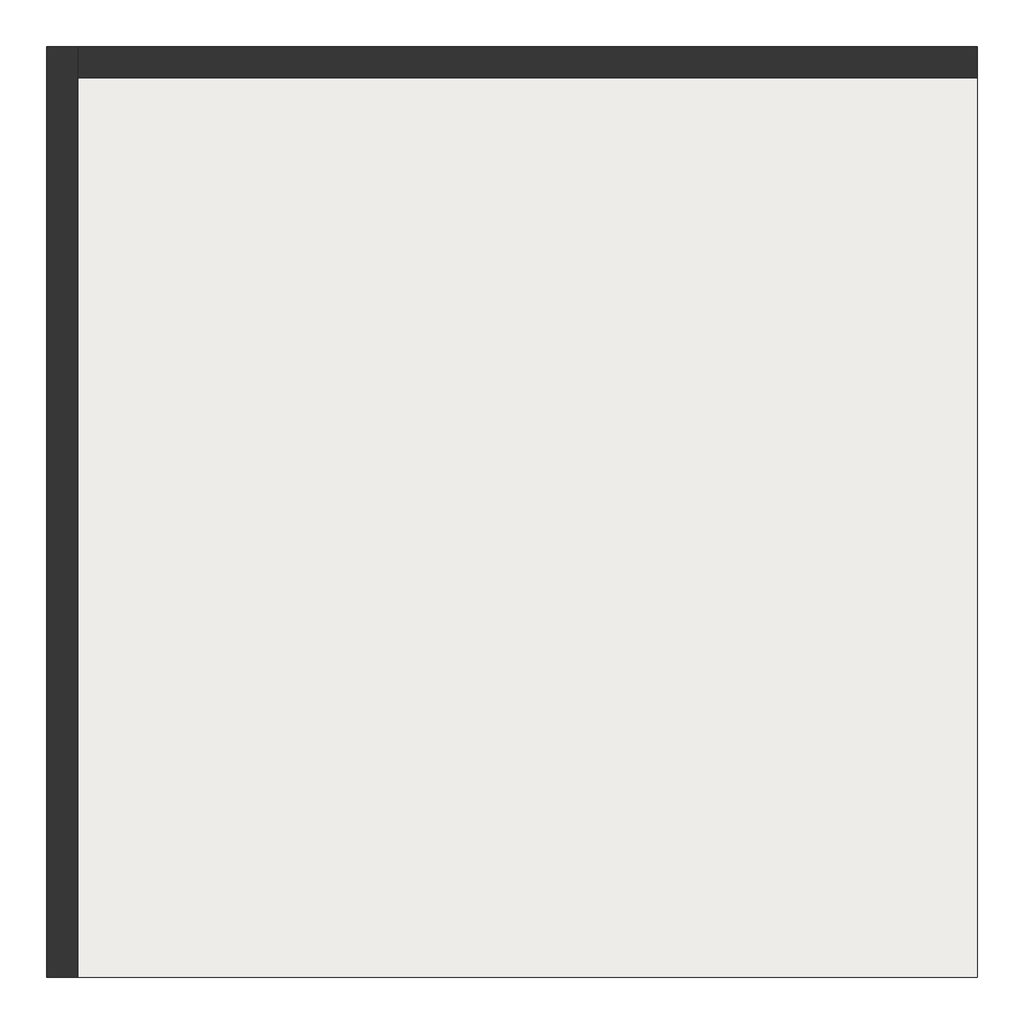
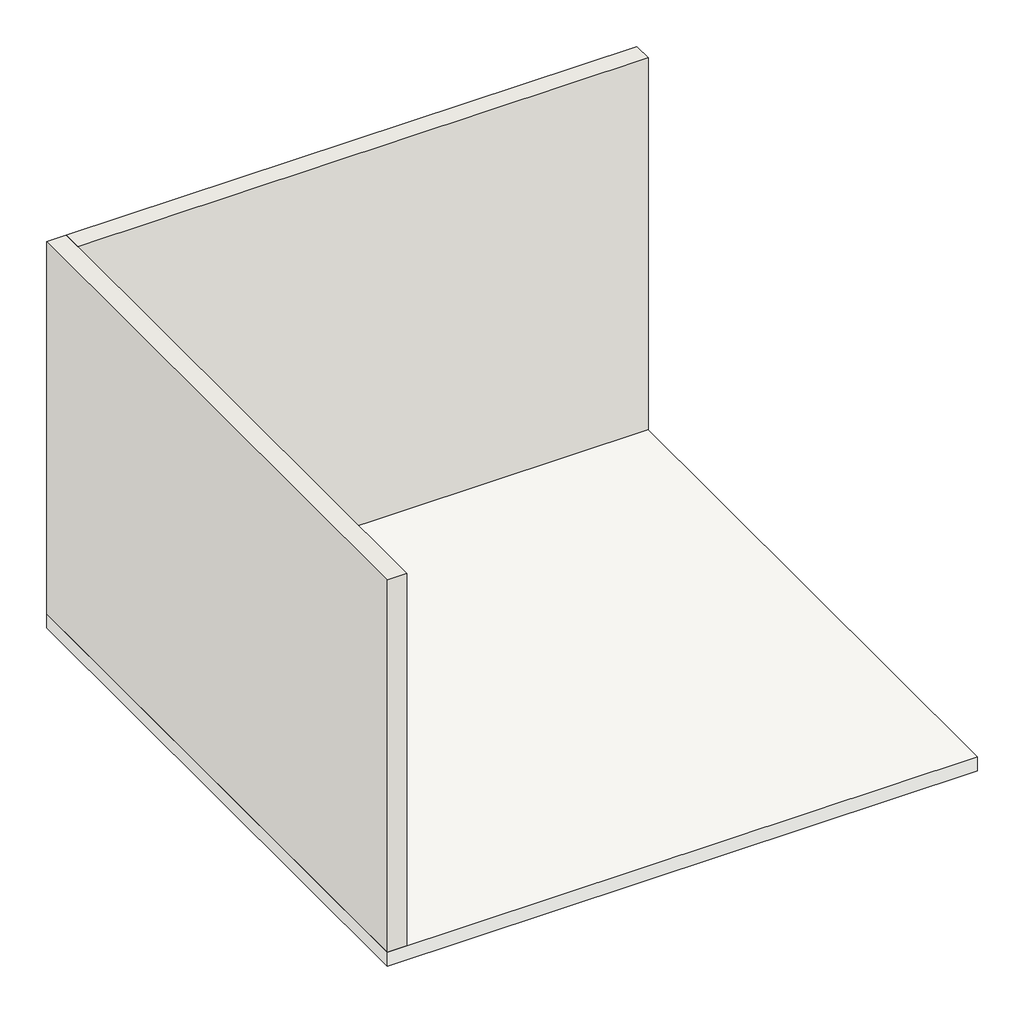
# One storey: 2 walls, 1 slab.
"""IFC4 building model written with IfcOpenShell, lengths in millimetres."""

from ifc_helpers import new_model, si_unit, frame, origin, origin_with_axes, place, context, project, spatial, polyline, outline, extrude, faceted_brep, element, save

model = new_model("IFC4")

# Units and contexts
model_context = context("Model", 3, world=origin())
ifc_project = project(units=[si_unit("LENGTHUNIT", "METRE", prefix="MILLI")], contexts=[model_context])

# Site, building, storey
site = spatial("IfcSite", under=ifc_project)
building = spatial("IfcBuilding", under=site)
storey = spatial("IfcBuildingStorey", under=building, Name="Nível 1", Elevation=0.0)

# Slab
placement = place(None, origin())
element("IfcSlab", 1, ObjectType="Genérico 150 mm", at=placement, inside=storey, context=model_context, shape_type="SweptSolid", body=[
    extrude(outline(polyline([(-4043.6866606, 6053.8374911), (-4043.6866606, 53.8374911), (-10043.6866606, 53.8374911), (-10043.6866606, 6053.8374911), (-4043.6866606, 6053.8374911)])), frame((0.0, 0.0, -150.0), z_axis=(0.0, 0.0, 1.0), x_axis=(1.0, 0.0, 0.0)), (0.0, 0.0, 1.0), 150.0),
])

# Walls
element("IfcWall", 2, ObjectType="Genérico - 200 mm", at=placement, inside=storey, context=model_context, shape_type="Brep", body=[
    faceted_brep([(-9843.6866606, 53.8374911, 0.0), (-9843.6866606, 5853.8374911, 0.0), (-9843.6866606, 6053.8374911, 0.0), (-9843.6866606, 6053.8374911, 4000.0), (-9843.6866606, 5853.8374911, 4000.0), (-9843.6866606, 53.8374911, 4000.0), (-10043.6866606, 53.8374911, 0.0), (-10043.6866606, 53.8374911, 4000.0), (-10043.6866606, 6053.8374911, 4000.0), (-10043.6866606, 6053.8374911, 0.0)], [[[0, 1, 2, 3, 4, 5]], [[6, 7, 8, 9]], [[2, 1, 0, 6, 9]], [[5, 4, 3, 8, 7]], [[0, 5, 7, 6]], [[3, 2, 9, 8]]]),
])
element("IfcWall", 3, ObjectType="Genérico - 200 mm", at=placement, inside=storey, context=model_context, shape_type="SweptSolid", body=[
    extrude(outline(polyline([(-4043.6866606, 5853.8374911), (-9843.6866606, 5853.8374911), (-9843.6866606, 6053.8374911), (-4043.6866606, 6053.8374911), (-4043.6866606, 5853.8374911)])), origin_with_axes(), (0.0, 0.0, 1.0), 4000.0),
])

save(model, "model.ifc")
